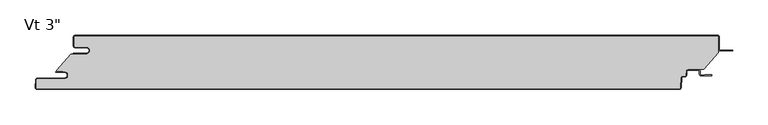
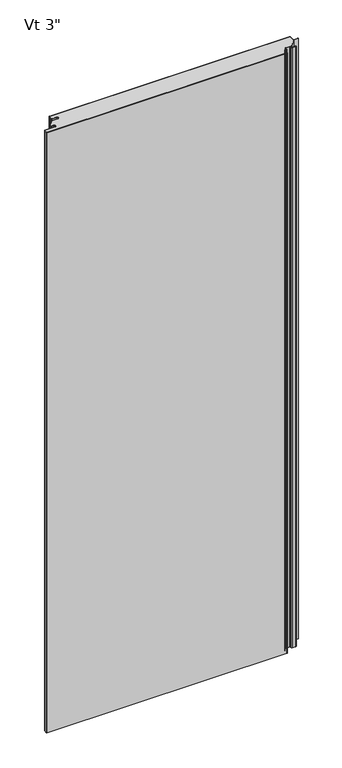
"""IFC4 building model written with IfcOpenShell, lengths in millimetres: plate geometry."""

from ifc_helpers import new_model, si_unit, point, frame, frame_2d, origin, origin_with_axes, place, context, project, spatial, polyline, circle_curve, ellipse_curve, trimmed, segment, composite_curve, outline, extrude, source, transform, mapped, element, save
from ifc_brep_helpers import plane_surface, cylinder_surface, revolved_surface, extruded_surface, advanced_brep


def plate_3af4c5b5(model_context):
    return source(origin(), model_context, "Body", "SolidModel", [
        extrude(outline(composite_curve([segment(polyline([(-438.4437502, -16.4625), (-454.3187502, -16.4625)]), True, "CONTINUOUS"), segment(trimmed(circle_curve(frame_2d((-454.3187502, -15.08125)), 1.38125), [point((-454.3187502, -16.4625))], [point((-455.7000002, -15.08125))], False, "CARTESIAN"), True, "CONTINUOUS"), segment(polyline([(-455.7000002, -15.08125), (-455.7000002, -2.38125)]), True, "CONTINUOUS"), segment(trimmed(circle_curve(frame_2d((-454.3187502, -2.38125)), 1.38125), [point((-455.7000002, -2.38125))], [point((-454.3187502, -1.0))], False, "CARTESIAN"), True, "CONTINUOUS"), segment(polyline([(-454.3187502, -1.0), (453.7312498, -1.0)]), True, "CONTINUOUS"), segment(trimmed(circle_curve(frame_2d((453.7312498, -2.38125)), 1.38125), [point((453.7312498, -1.0))], [point((455.1124998, -2.38125))], False, "CARTESIAN"), True, "CONTINUOUS"), segment(polyline([(455.1124998, -2.38125), (455.1124998, -24.9057308), (434.2955432, -48.2125), (411.8540781, -48.2125)]), True, "CONTINUOUS"), segment(trimmed(circle_curve(frame_2d((411.8540781, -50.8)), 2.5875), [point((411.8540781, -48.2125))], [point((409.2701242, -50.6645807))], True, "CARTESIAN"), True, "CONTINUOUS"), segment(polyline([(409.2701242, -50.6645807), (408.9680479, -56.428539)]), True, "CONTINUOUS"), segment(trimmed(circle_curve(frame_2d((407.5886909, -56.35625)), 1.38125), [point((408.9680479, -56.428539))], [point((407.5886909, -57.7375))], False, "CARTESIAN"), True, "CONTINUOUS"), segment(polyline([(407.5886909, -57.7375), (404.5448845, -57.7375)]), True, "CONTINUOUS"), segment(trimmed(circle_curve(frame_2d((404.5448845, -60.325)), 2.5875), [point((404.5448845, -57.7375))], [point((401.9609306, -60.1895807))], True, "CARTESIAN"), True, "CONTINUOUS"), segment(polyline([(401.9609306, -60.1895807), (401.2428676, -73.891039)]), True, "CONTINUOUS"), segment(trimmed(circle_curve(frame_2d((399.8635105, -73.81875)), 1.38125), [point((401.2428676, -73.891039))], [point((399.8635105, -75.2))], False, "CARTESIAN"), True, "CONTINUOUS"), segment(polyline([(399.8635105, -75.2), (-508.1799537, -75.2)]), True, "CONTINUOUS"), segment(trimmed(circle_curve(frame_2d((-508.1799537, -73.81875)), 1.38125), [point((-508.1799537, -75.2))], [point((-509.5593107, -73.746461))], False, "CARTESIAN"), True, "CONTINUOUS"), segment(polyline([(-509.5593107, -73.746461), (-508.9769293, -62.633961)]), True, "CONTINUOUS"), segment(trimmed(circle_curve(frame_2d((-507.5975722, -62.70625)), 1.38125), [point((-508.9769293, -62.633961))], [point((-507.5975722, -61.325))], False, "CARTESIAN"), True, "CONTINUOUS"), segment(polyline([(-507.5975722, -61.325), (-469.4142676, -61.325)]), True, "CONTINUOUS"), segment(trimmed(circle_curve(frame_2d((-469.4142676, -56.35625)), 4.96875), [point((-469.4142676, -61.325))], [point((-469.4142676, -51.3875))], True, "CARTESIAN"), True, "CONTINUOUS"), segment(polyline([(-469.4142676, -51.3875), (-471.0017676, -51.59375), (-471.0017676, -50.8), (-480.5125002, -50.8), (-480.5125002, -49.2157227), (-460.6260924, -26.4), (-438.4437502, -26.4)]), True, "CONTINUOUS"), segment(trimmed(circle_curve(frame_2d((-438.4437502, -21.43125)), 4.96875), [point((-438.4437502, -26.4))], [point((-438.4437502, -16.4625))], True, "CARTESIAN"), True, "CONTINUOUS")], self_intersect=False)), origin_with_axes(), (0.0, 0.0, 1.0), 2400.0),
        extrude(outline(composite_curve([segment(polyline([(-456.7000002, -25.4), (-438.4437502, -25.4)]), True, "CONTINUOUS"), segment(trimmed(circle_curve(frame_2d((-438.4437502, -21.43125)), 3.96875), [point((-438.4437502, -25.4))], [point((-438.4437502, -17.4625))], True, "CARTESIAN"), True, "CONTINUOUS"), segment(polyline([(-438.4437502, -17.4625), (-454.3187502, -17.4625)]), True, "CONTINUOUS"), segment(trimmed(circle_curve(frame_2d((-454.3187502, -15.08125)), 2.38125), [point((-454.3187502, -17.4625))], [point((-456.7000002, -15.08125))], False, "CARTESIAN"), True, "CONTINUOUS"), segment(polyline([(-456.7000002, -15.08125), (-456.7000002, -2.38125)]), True, "CONTINUOUS"), segment(trimmed(circle_curve(frame_2d((-454.3187502, -2.38125)), 2.38125), [point((-456.7000002, -2.38125))], [point((-454.3187502, 0.0))], False, "CARTESIAN"), True, "CONTINUOUS"), segment(polyline([(-454.3187502, 0.0), (453.7312498, 0.0)]), True, "CONTINUOUS"), segment(trimmed(circle_curve(frame_2d((453.7312498, -2.38125)), 2.38125), [point((453.7312498, 0.0))], [point((456.1124998, -2.38125))], False, "CARTESIAN"), True, "CONTINUOUS"), segment(polyline([(456.1124998, -2.38125), (456.1124998, -19.446875)]), True, "CONTINUOUS"), segment(trimmed(circle_curve(frame_2d((457.6999998, -19.446875)), 1.5875), [point((456.1124998, -19.446875))], [point((457.6999998, -21.034375))], True, "CARTESIAN"), True, "CONTINUOUS"), segment(polyline([(457.6999998, -21.034375), (475.1624998, -21.034375), (475.1624998, -22.034375), (457.6999998, -22.034375)]), True, "CONTINUOUS"), segment(trimmed(circle_curve(frame_2d((457.6999998, -19.446875)), 2.5875), [point((457.6999998, -22.034375))], [point((455.1124998, -19.446875))], False, "CARTESIAN"), True, "CONTINUOUS"), segment(polyline([(455.1124998, -19.446875), (455.1124998, -2.38125)]), True, "CONTINUOUS"), segment(trimmed(circle_curve(frame_2d((453.7312498, -2.38125)), 1.38125), [point((455.1124998, -2.38125))], [point((453.7312498, -1.0))], True, "CARTESIAN"), True, "CONTINUOUS"), segment(polyline([(453.7312498, -1.0), (-454.3187502, -1.0)]), True, "CONTINUOUS"), segment(trimmed(circle_curve(frame_2d((-454.3187502, -2.38125)), 1.38125), [point((-454.3187502, -1.0))], [point((-455.7000002, -2.38125))], True, "CARTESIAN"), True, "CONTINUOUS"), segment(polyline([(-455.7000002, -2.38125), (-455.7000002, -15.08125)]), True, "CONTINUOUS"), segment(trimmed(circle_curve(frame_2d((-454.3187502, -15.08125)), 1.38125), [point((-455.7000002, -15.08125))], [point((-454.3187502, -16.4625))], True, "CARTESIAN"), True, "CONTINUOUS"), segment(polyline([(-454.3187502, -16.4625), (-438.4437502, -16.4625)]), True, "CONTINUOUS"), segment(trimmed(circle_curve(frame_2d((-438.4437502, -21.43125)), 4.96875), [point((-438.4437502, -16.4625))], [point((-438.4437502, -26.4))], False, "CARTESIAN"), True, "CONTINUOUS"), segment(polyline([(-438.4437502, -26.4), (-456.7000002, -26.4), (-456.7000002, -25.4)]), True, "CONTINUOUS")], self_intersect=False)), origin_with_axes(), (0.0, 0.0, 1.0), 2400.0),
        advanced_brep(
        [(-480.7252051, -50.8, 2400.0), (-480.7252051, -52.3875, 2400.0), (-469.4142676, -52.3875, 2400.0), (-469.4142676, -60.325, 2400.0), (-507.5975722, -60.325, 2400.0), (-509.9755588, -62.581625, 2400.0), (-510.5579402, -73.694125, 2400.0), (-508.1799537, -76.2, 2400.0), (399.8635105, -76.2, 2400.0), (402.2414971, -73.943375, 2400.0), (402.9595601, -60.2419167, 2400.0), (404.5448845, -58.7375, 2400.0), (407.5886909, -58.7375, 2400.0), (409.9666775, -56.480875, 2400.0), (410.2687537, -50.7169167, 2400.0), (411.8540781, -49.2125, 2400.0), (426.7294824, -49.2125, 2400.0), (428.3169824, -50.8, 2400.0), (428.3169824, -54.9671875, 2400.0), (430.6982324, -57.3484375, 2400.0), (445.189853, -57.3484375, 2400.0), (445.189853, -55.5546875, 2400.0), (435.4607324, -55.5546875, 2400.0), (435.4607324, -56.3484375, 2400.0), (430.6982324, -56.3484375, 2400.0), (429.3169824, -54.9671875, 2400.0), (429.3169824, -50.8, 2400.0), (426.7294824, -48.2125, 2400.0), (411.8540781, -48.2125, 2400.0), (409.2701242, -50.6645807, 2400.0), (408.9680479, -56.428539, 2400.0), (407.5886909, -57.7375, 2400.0), (404.5448845, -57.7375, 2400.0), (401.9609306, -60.1895807, 2400.0), (401.2428676, -73.891039, 2400.0), (399.8635105, -75.2, 2400.0), (-508.1799537, -75.2, 2400.0), (-509.5593107, -73.746461, 2400.0), (-508.9769293, -62.633961, 2400.0), (-507.5975722, -61.325, 2400.0), (-469.4142676, -61.325, 2400.0), (-469.4142676, -51.3875, 2400.0), (-471.0017676, -51.59375, 2400.0), (-471.0017676, -50.8, 2400.0), (-480.7252051, -50.8, 0.0), (-471.0017676, -50.8, 0.0), (-471.0017676, -51.59375, 0.0), (-469.4142676, -51.3875, 0.0), (-469.4142676, -61.325, 0.0), (-507.5975722, -61.325, 0.0), (-508.9769293, -62.633961, 0.0), (-509.5593107, -73.746461, 0.0), (-508.1799537, -75.2, 0.0), (399.8635105, -75.2, 0.0), (401.2428676, -73.891039, 0.0), (401.9609306, -60.1895807, 0.0), (404.5448845, -57.7375, 0.0), (407.5886909, -57.7375, 0.0), (408.9680479, -56.428539, 0.0), (409.2701242, -50.6645807, 0.0), (411.8540781, -48.2125, 0.0), (426.7294824, -48.2125, 0.0), (429.3169824, -50.8, 0.0), (429.3169824, -54.9671875, 0.0), (430.6982324, -56.3484375, 0.0), (435.4607324, -56.3484375, 0.0), (435.4607324, -55.5546875, 0.0), (445.189853, -55.5546875, 0.0), (445.189853, -57.3484375, 0.0), (430.6982324, -57.3484375, 0.0), (428.3169824, -54.9671875, 0.0), (428.3169824, -50.8, 0.0), (426.7294824, -49.2125, 0.0), (411.8540781, -49.2125, 0.0), (410.2687537, -50.7169167, 0.0), (409.9666775, -56.480875, 0.0), (407.5886909, -58.7375, 0.0), (404.5448845, -58.7375, 0.0), (402.9595601, -60.2419167, 0.0), (402.2414971, -73.943375, 0.0), (399.8635105, -76.2, 0.0), (-508.1799537, -76.2, 0.0), (-510.5579402, -73.694125, 0.0), (-509.9755588, -62.581625, 0.0), (-507.5975722, -60.325, 0.0), (-469.4142676, -60.325, 0.0), (-469.4142676, -52.3875, 0.0), (-480.7252051, -52.3875, 0.0)],
        [
            (0, 1, circle_curve(frame((-480.7252051, -51.59375, 2400.0), z_axis=(0.0, 0.0, 1.0), x_axis=(1.0, 0.0, 0.0)), 0.79375)),
            (1, 2),
            (2, 3, circle_curve(frame((-469.4142676, -56.35625, 2400.0), z_axis=(0.0, 0.0, -1.0), x_axis=(1.0, 0.0, 0.0)), 3.96875)),
            (3, 4),
            (4, 5, circle_curve(frame((-507.5975722, -62.70625, 2400.0), z_axis=(0.0, 0.0, 1.0), x_axis=(1.0, 0.0, 0.0)), 2.38125)),
            (5, 6),
            (6, 7, circle_curve(frame((-508.1799537, -73.81875, 2400.0), z_axis=(0.0, 0.0, 1.0), x_axis=(1.0, 0.0, 0.0)), 2.38125)),
            (7, 8),
            (8, 9, circle_curve(frame((399.8635105, -73.81875, 2400.0), z_axis=(0.0, 0.0, 1.0), x_axis=(1.0, 0.0, 0.0)), 2.38125)),
            (9, 10),
            (10, 11, circle_curve(frame((404.5448845, -60.325, 2400.0), z_axis=(0.0, 0.0, -1.0), x_axis=(1.0, 0.0, 0.0)), 1.5875)),
            (11, 12),
            (12, 13, circle_curve(frame((407.5886909, -56.35625, 2400.0), z_axis=(0.0, 0.0, 1.0), x_axis=(1.0, 0.0, 0.0)), 2.38125)),
            (13, 14),
            (14, 15, circle_curve(frame((411.8540781, -50.8, 2400.0), z_axis=(0.0, 0.0, -1.0), x_axis=(1.0, 0.0, 0.0)), 1.5875)),
            (15, 16),
            (16, 17, circle_curve(frame((426.7294824, -50.8, 2400.0), z_axis=(0.0, 0.0, -1.0), x_axis=(1.0, 0.0, 0.0)), 1.5875)),
            (17, 18),
            (18, 19, circle_curve(frame((430.6982324, -54.9671875, 2400.0), z_axis=(0.0, 0.0, 1.0), x_axis=(1.0, 0.0, 0.0)), 2.38125)),
            (19, 20),
            (20, 21, ellipse_curve(frame((445.189853, -56.4515625, 2400.0), z_axis=(0.0, 0.0, 1.0), x_axis=(0.0, 1.0, 0.0)), 0.896875, 0.7852275)),
            (21, 22),
            (22, 23),
            (23, 24),
            (24, 25, circle_curve(frame((430.6982324, -54.9671875, 2400.0), z_axis=(0.0, 0.0, -1.0), x_axis=(1.0, 0.0, 0.0)), 1.38125)),
            (25, 26),
            (26, 27, circle_curve(frame((426.7294824, -50.8, 2400.0), z_axis=(0.0, 0.0, 1.0), x_axis=(1.0, 0.0, 0.0)), 2.5875)),
            (27, 28),
            (28, 29, circle_curve(frame((411.8540781, -50.8, 2400.0), z_axis=(0.0, 0.0, 1.0), x_axis=(1.0, 0.0, 0.0)), 2.5875)),
            (29, 30),
            (30, 31, circle_curve(frame((407.5886909, -56.35625, 2400.0), z_axis=(0.0, 0.0, -1.0), x_axis=(1.0, 0.0, 0.0)), 1.38125)),
            (31, 32),
            (32, 33, circle_curve(frame((404.5448845, -60.325, 2400.0), z_axis=(0.0, 0.0, 1.0), x_axis=(1.0, 0.0, 0.0)), 2.5875)),
            (33, 34),
            (34, 35, circle_curve(frame((399.8635105, -73.81875, 2400.0), z_axis=(0.0, 0.0, -1.0), x_axis=(1.0, 0.0, 0.0)), 1.38125)),
            (35, 36),
            (36, 37, circle_curve(frame((-508.1799537, -73.81875, 2400.0), z_axis=(0.0, 0.0, -1.0), x_axis=(1.0, 0.0, 0.0)), 1.38125)),
            (37, 38),
            (38, 39, circle_curve(frame((-507.5975722, -62.70625, 2400.0), z_axis=(0.0, 0.0, -1.0), x_axis=(1.0, 0.0, 0.0)), 1.38125)),
            (39, 40),
            (40, 41, circle_curve(frame((-469.4142676, -56.35625, 2400.0), z_axis=(0.0, 0.0, 1.0), x_axis=(1.0, 0.0, 0.0)), 4.96875)),
            (41, 42),
            (42, 43),
            (43, 0),
            (44, 45),
            (45, 46),
            (46, 47),
            (47, 48, circle_curve(frame((-469.4142676, -56.35625, 0.0), z_axis=(0.0, 0.0, -1.0), x_axis=(1.0, 0.0, 0.0)), 4.96875)),
            (48, 49),
            (49, 50, circle_curve(frame((-507.5975722, -62.70625, 0.0), z_axis=(0.0, 0.0, 1.0), x_axis=(1.0, 0.0, 0.0)), 1.38125)),
            (50, 51),
            (51, 52, circle_curve(frame((-508.1799537, -73.81875, 0.0), z_axis=(0.0, 0.0, 1.0), x_axis=(1.0, 0.0, 0.0)), 1.38125)),
            (52, 53),
            (53, 54, circle_curve(frame((399.8635105, -73.81875, 0.0), z_axis=(0.0, 0.0, 1.0), x_axis=(1.0, 0.0, 0.0)), 1.38125)),
            (54, 55),
            (55, 56, circle_curve(frame((404.5448845, -60.325, 0.0), z_axis=(0.0, 0.0, -1.0), x_axis=(1.0, 0.0, 0.0)), 2.5875)),
            (56, 57),
            (57, 58, circle_curve(frame((407.5886909, -56.35625, 0.0), z_axis=(0.0, 0.0, 1.0), x_axis=(1.0, 0.0, 0.0)), 1.38125)),
            (58, 59),
            (59, 60, circle_curve(frame((411.8540781, -50.8, 0.0), z_axis=(0.0, 0.0, -1.0), x_axis=(1.0, 0.0, 0.0)), 2.5875)),
            (60, 61),
            (61, 62, circle_curve(frame((426.7294824, -50.8, 0.0), z_axis=(0.0, 0.0, -1.0), x_axis=(1.0, 0.0, 0.0)), 2.5875)),
            (62, 63),
            (63, 64, circle_curve(frame((430.6982324, -54.9671875, 0.0), z_axis=(0.0, 0.0, 1.0), x_axis=(1.0, 0.0, 0.0)), 1.38125)),
            (64, 65),
            (65, 66),
            (66, 67),
            (67, 68, ellipse_curve(frame((445.189853, -56.4515625, 0.0), z_axis=(0.0, 0.0, -1.0), x_axis=(0.0, 1.0, 0.0)), 0.896875, 0.7852275)),
            (68, 69),
            (69, 70, circle_curve(frame((430.6982324, -54.9671875, 0.0), z_axis=(0.0, 0.0, -1.0), x_axis=(1.0, 0.0, 0.0)), 2.38125)),
            (70, 71),
            (71, 72, circle_curve(frame((426.7294824, -50.8, 0.0), z_axis=(0.0, 0.0, 1.0), x_axis=(1.0, 0.0, 0.0)), 1.5875)),
            (72, 73),
            (73, 74, circle_curve(frame((411.8540781, -50.8, 0.0), z_axis=(0.0, 0.0, 1.0), x_axis=(1.0, 0.0, 0.0)), 1.5875)),
            (74, 75),
            (75, 76, circle_curve(frame((407.5886909, -56.35625, 0.0), z_axis=(0.0, 0.0, -1.0), x_axis=(1.0, 0.0, 0.0)), 2.38125)),
            (76, 77),
            (77, 78, circle_curve(frame((404.5448845, -60.325, 0.0), z_axis=(0.0, 0.0, 1.0), x_axis=(1.0, 0.0, 0.0)), 1.5875)),
            (78, 79),
            (79, 80, circle_curve(frame((399.8635105, -73.81875, 0.0), z_axis=(0.0, 0.0, -1.0), x_axis=(1.0, 0.0, 0.0)), 2.38125)),
            (80, 81),
            (81, 82, circle_curve(frame((-508.1799537, -73.81875, 0.0), z_axis=(0.0, 0.0, -1.0), x_axis=(1.0, 0.0, 0.0)), 2.38125)),
            (82, 83),
            (83, 84, circle_curve(frame((-507.5975722, -62.70625, 0.0), z_axis=(0.0, 0.0, -1.0), x_axis=(1.0, 0.0, 0.0)), 2.38125)),
            (84, 85),
            (85, 86, circle_curve(frame((-469.4142676, -56.35625, 0.0), z_axis=(0.0, 0.0, 1.0), x_axis=(1.0, 0.0, 0.0)), 3.96875)),
            (86, 87),
            (87, 44, circle_curve(frame((-480.7252051, -51.59375, 0.0), z_axis=(0.0, 0.0, -1.0), x_axis=(1.0, 0.0, 0.0)), 0.79375)),
            (20, 68),
            (67, 21),
            (66, 22),
            (65, 23),
            (41, 47),
            (46, 42),
            (45, 43),
            (40, 48),
            (39, 49),
            (38, 50),
            (37, 51),
            (33, 55),
            (54, 34),
            (32, 56),
            (31, 57),
            (30, 58),
            (29, 59),
            (28, 60),
            (64, 24),
            (63, 25),
            (62, 26),
            (61, 27),
            (18, 70),
            (69, 19),
            (17, 71),
            (16, 72),
            (15, 73),
            (14, 74),
            (13, 75),
            (12, 76),
            (11, 77),
            (10, 78),
            (9, 79),
            (5, 83),
            (82, 6),
            (4, 84),
            (3, 85),
            (2, 86),
            (1, 87),
            (0, 44),
            (36, 52),
            (35, 53),
            (8, 80),
            (7, 81),
        ],
        [
            plane_surface(frame((-0.2937502, -76.2, 2400.0), z_axis=(0.0, 0.0, 1.0), x_axis=(0.0, -1.0, 0.0))),
            plane_surface(frame((-0.2937502, -76.2, 0.0), z_axis=(0.0, 0.0, -1.0), x_axis=(0.0, -1.0, 0.0))),
            extruded_surface(trimmed(ellipse_curve(frame((445.189853, -56.4515625, 2400.0), z_axis=(0.0, 0.0, -1.0), x_axis=(0.0, 1.0, 0.0)), 0.896875, 0.7852275), [point((445.189853, -55.5546875, 2400.0))], [point((445.189853, -57.3484375, 2400.0))], True, "CARTESIAN"), (0.0, 0.0, -2400.0), 2400.0),
            plane_surface(frame((435.4607324, -55.5546875, 2400.0), z_axis=(0.0, 1.0, 0.0), x_axis=(0.0, 0.0, -1.0))),
            plane_surface(frame((435.4607324, -56.3484375, 2400.0), z_axis=(-1.0, 0.0, 0.0), x_axis=(0.0, 0.0, -1.0))),
            plane_surface(frame((-471.0017676, -51.59375, 2400.0), z_axis=(-0.12883844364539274, 0.9916655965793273, 0.0), x_axis=(0.0, 0.0, -1.0))),
            plane_surface(frame((-471.0017676, -50.8, 2400.0), z_axis=(1.0, 0.0, 0.0), x_axis=(0.0, 0.0, -1.0))),
            cylinder_surface(frame((-469.4142676, -56.35625, 2400.0), z_axis=(0.0, 0.0, 1.0), x_axis=(1.0, 0.0, 0.0)), 4.96875),
            plane_surface(frame((-469.4142676, -61.325, 2400.0), z_axis=(0.0, -1.0, 0.0), x_axis=(0.0, 0.0, -1.0))),
            revolved_surface(polyline([(-506.2163222, -62.70625, 0.0), (-506.2163222, -62.70625, 2400.0)]), (-507.5975722, -62.70625, 2400.0), (0.0, 0.0, -1.0)),
            plane_surface(frame((-508.9769293, -62.633961, 2400.0), z_axis=(0.9986295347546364, -0.05233595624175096, 0.0), x_axis=(0.0, 0.0, -1.0))),
            plane_surface(frame((401.2428676, -73.891039, 2400.0), z_axis=(-0.9986295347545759, 0.05233595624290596, 0.0), x_axis=(0.0, 0.0, -1.0))),
            cylinder_surface(frame((404.5448845, -60.325, 2400.0), z_axis=(0.0, 0.0, 1.0), x_axis=(1.0, 0.0, 0.0)), 2.5875),
            plane_surface(frame((404.5448845, -57.7375, 2400.0), z_axis=(0.0, 1.0, 0.0), x_axis=(0.0, 0.0, -1.0))),
            revolved_surface(polyline([(408.96994090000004, -56.35625, 0.0), (408.96994090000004, -56.35625, 2400.0)]), (407.5886909, -56.35625, 2400.0), (0.0, 0.0, -1.0)),
            plane_surface(frame((408.9680479, -56.428539, 2400.0), z_axis=(-0.998629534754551, 0.05233595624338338, 0.0), x_axis=(0.0, 0.0, -1.0))),
            cylinder_surface(frame((411.8540781, -50.8, 2400.0), z_axis=(0.0, 0.0, 1.0), x_axis=(1.0, 0.0, 0.0)), 2.5875),
            plane_surface(frame((430.6982324, -56.3484375, 2400.0), z_axis=(0.0, 1.0, 0.0), x_axis=(0.0, 0.0, -1.0))),
            revolved_surface(polyline([(432.0794824, -54.9671875, 0.0), (432.0794824, -54.9671875, 2400.0)]), (430.6982324, -54.9671875, 2400.0), (0.0, 0.0, -1.0)),
            plane_surface(frame((429.3169824, -50.8, 2400.0), z_axis=(1.0, 0.0, 0.0), x_axis=(0.0, 0.0, -1.0))),
            cylinder_surface(frame((426.7294824, -50.8, 2400.0), z_axis=(0.0, 0.0, 1.0), x_axis=(1.0, 0.0, 0.0)), 2.5875),
            plane_surface(frame((411.8540781, -48.2125, 2400.0), z_axis=(0.0, 1.0, 0.0), x_axis=(0.0, 0.0, -1.0))),
            cylinder_surface(frame((430.6982324, -54.9671875, 2400.0), z_axis=(0.0, 0.0, 1.0), x_axis=(1.0, 0.0, 0.0)), 2.38125),
            plane_surface(frame((428.3169824, -54.9671875, 2400.0), z_axis=(-1.0, 0.0, 0.0), x_axis=(0.0, 0.0, -1.0))),
            revolved_surface(polyline([(428.3169824, -50.8, 0.0), (428.3169824, -50.8, 2400.0)]), (426.7294824, -50.8, 2400.0), (0.0, 0.0, -1.0)),
            plane_surface(frame((426.7294824, -49.2125, 2400.0), z_axis=(0.0, -1.0, 0.0), x_axis=(0.0, 0.0, -1.0))),
            revolved_surface(polyline([(413.44157809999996, -50.8, 0.0), (413.44157809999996, -50.8, 2400.0)]), (411.8540781, -50.8, 2400.0), (0.0, 0.0, -1.0)),
            plane_surface(frame((410.2687537, -50.7169167, 2400.0), z_axis=(0.9986295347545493, -0.05233595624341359, 0.0), x_axis=(0.0, 0.0, -1.0))),
            cylinder_surface(frame((407.5886909, -56.35625, 2400.0), z_axis=(0.0, 0.0, 1.0), x_axis=(1.0, 0.0, 0.0)), 2.38125),
            plane_surface(frame((407.5886909, -58.7375, 2400.0), z_axis=(0.0, -1.0, 0.0), x_axis=(0.0, 0.0, -1.0))),
            revolved_surface(polyline([(406.1323845, -60.325, 0.0), (406.1323845, -60.325, 2400.0)]), (404.5448845, -60.325, 2400.0), (0.0, 0.0, -1.0)),
            plane_surface(frame((402.9595601, -60.2419167, 2400.0), z_axis=(0.9986295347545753, -0.052335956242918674, 0.0), x_axis=(0.0, 0.0, -1.0))),
            plane_surface(frame((-510.5579402, -73.694125, 2400.0), z_axis=(-0.9986295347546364, 0.05233595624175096, 0.0), x_axis=(0.0, 0.0, -1.0))),
            cylinder_surface(frame((-507.5975722, -62.70625, 2400.0), z_axis=(0.0, 0.0, 1.0), x_axis=(1.0, 0.0, 0.0)), 2.38125),
            plane_surface(frame((-507.5975722, -60.325, 2400.0), z_axis=(0.0, 1.0, 0.0), x_axis=(0.0, 0.0, -1.0))),
            revolved_surface(polyline([(-465.4455176, -56.35625, 0.0), (-465.4455176, -56.35625, 2400.0)]), (-469.4142676, -56.35625, 2400.0), (0.0, 0.0, -1.0)),
            plane_surface(frame((-469.4142676, -52.3875, 2400.0), z_axis=(0.0, -1.0, 0.0), x_axis=(0.0, 0.0, -1.0))),
            cylinder_surface(frame((-480.7252051, -51.59375, 2400.0), z_axis=(0.0, 0.0, 1.0), x_axis=(1.0, 0.0, 0.0)), 0.79375),
            plane_surface(frame((-480.7252051, -50.8, 2400.0), z_axis=(0.0, 1.0, 0.0), x_axis=(0.0, 0.0, -1.0))),
            revolved_surface(polyline([(-506.7987037, -73.81875, 0.0), (-506.7987037, -73.81875, 2400.0)]), (-508.1799537, -73.81875, 2400.0), (0.0, 0.0, -1.0)),
            plane_surface(frame((-508.1799537, -75.2, 2400.0), z_axis=(0.0, 1.0, 0.0), x_axis=(0.0, 0.0, -1.0))),
            revolved_surface(polyline([(401.24476050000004, -73.81875, 0.0), (401.24476050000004, -73.81875, 2400.0)]), (399.8635105, -73.81875, 2400.0), (0.0, 0.0, -1.0)),
            plane_surface(frame((445.189853, -57.3484375, 2400.0), z_axis=(0.0, -1.0, 0.0), x_axis=(0.0, 0.0, -1.0))),
            cylinder_surface(frame((399.8635105, -73.81875, 2400.0), z_axis=(0.0, 0.0, 1.0), x_axis=(1.0, 0.0, 0.0)), 2.38125),
            plane_surface(frame((399.8635105, -76.2, 2400.0), z_axis=(0.0, -1.0, 0.0), x_axis=(0.0, 0.0, -1.0))),
            cylinder_surface(frame((-508.1799537, -73.81875, 2400.0), z_axis=(0.0, 0.0, 1.0), x_axis=(1.0, 0.0, 0.0)), 2.38125),
        ],
        [
            (0, [[1, 2, 3, 4, 5, 6, 7, 8, 9, 10, 11, 12, 13, 14, 15, 16, 17, 18, 19, 20, 21, 22, 23, 24, 25, 26, 27, 28, 29, 30, 31, 32, 33, 34, 35, 36, 37, 38, 39, 40, 41, 42, 43, 44]]),
            (1, [[45, 46, 47, 48, 49, 50, 51, 52, 53, 54, 55, 56, 57, 58, 59, 60, 61, 62, 63, 64, 65, 66, 67, 68, 69, 70, 71, 72, 73, 74, 75, 76, 77, 78, 79, 80, 81, 82, 83, 84, 85, 86, 87, 88]]),
            (2, [[89, -68, 90, -21]]),
            (3, [[-90, -67, 91, -22]]),
            (4, [[-91, -66, 92, -23]]),
            (5, [[93, -47, 94, -42]]),
            (6, [[-94, -46, 95, -43]]),
            (7, [[96, -48, -93, -41]]),
            (8, [[97, -49, -96, -40]]),
            (9, [[98, -50, -97, -39]]),
            (10, [[99, -51, -98, -38]]),
            (11, [[100, -55, 101, -34]]),
            (12, [[102, -56, -100, -33]]),
            (13, [[103, -57, -102, -32]]),
            (14, [[104, -58, -103, -31]]),
            (15, [[105, -59, -104, -30]]),
            (16, [[106, -60, -105, -29]]),
            (17, [[-92, -65, 107, -24]]),
            (18, [[-107, -64, 108, -25]]),
            (19, [[-108, -63, 109, -26]]),
            (20, [[-109, -62, 110, -27]]),
            (21, [[-110, -61, -106, -28]]),
            (22, [[111, -70, 112, -19]]),
            (23, [[113, -71, -111, -18]]),
            (24, [[114, -72, -113, -17]]),
            (25, [[115, -73, -114, -16]]),
            (26, [[116, -74, -115, -15]]),
            (27, [[117, -75, -116, -14]]),
            (28, [[118, -76, -117, -13]]),
            (29, [[119, -77, -118, -12]]),
            (30, [[120, -78, -119, -11]]),
            (31, [[121, -79, -120, -10]]),
            (32, [[122, -83, 123, -6]]),
            (33, [[124, -84, -122, -5]]),
            (34, [[125, -85, -124, -4]]),
            (35, [[126, -86, -125, -3]]),
            (36, [[127, -87, -126, -2]]),
            (37, [[128, -88, -127, -1]]),
            (38, [[-95, -45, -128, -44]]),
            (39, [[129, -52, -99, -37]]),
            (40, [[130, -53, -129, -36]]),
            (41, [[-101, -54, -130, -35]]),
            (42, [[-112, -69, -89, -20]]),
            (43, [[131, -80, -121, -9]]),
            (44, [[132, -81, -131, -8]]),
            (45, [[-123, -82, -132, -7]]),
        ],
    ),
    ])


if __name__ == "__main__":
    model = new_model("IFC4")
    model_context = context("Model", 3, world=origin())
    ifc_project = project(units=[si_unit("LENGTHUNIT", "METRE", prefix="MILLI")], contexts=[model_context])
    site = spatial("IfcSite", under=ifc_project)
    building = spatial("IfcBuilding", under=site)
    placement = place(None, origin())
    plate_shape = plate_3af4c5b5(model_context)
    element("IfcPlate", 1, ObjectType="KIP-36-DWTR-R19-CP-Vt-F : Vt 3\"", at=placement, inside=building, context=model_context, shape_type="MappedRepresentation", body=[
        mapped(plate_shape, transform((0.0, 0.0, 0.0), x_axis=(1.0, 0.0, 0.0), y_axis=(0.0, 1.0, 0.0), z_axis=(0.0, 0.0, 1.0))),
    ])
    save(model, "model.ifc")
